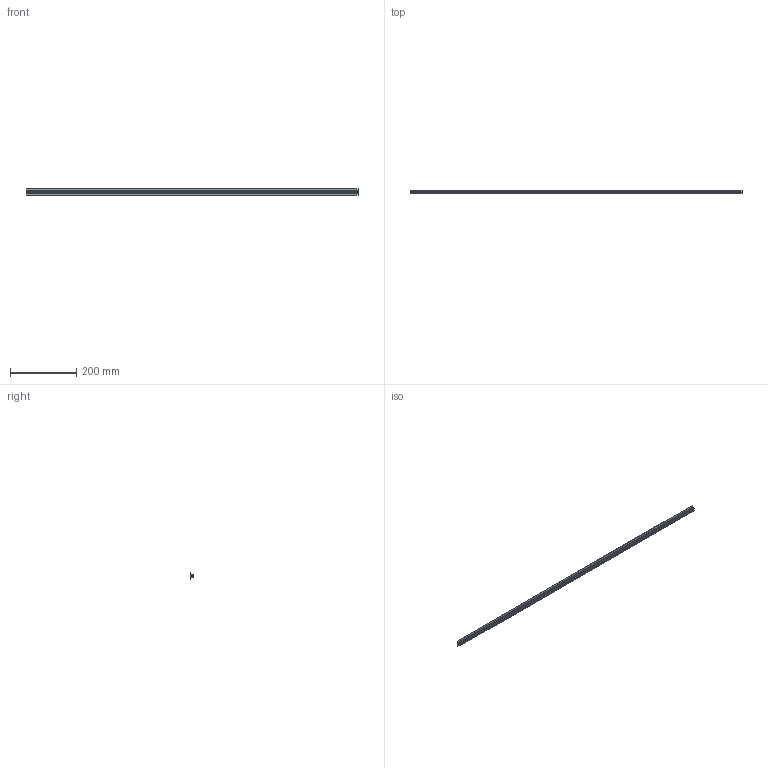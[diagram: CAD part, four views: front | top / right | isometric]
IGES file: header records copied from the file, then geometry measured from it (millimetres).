
Start section: SolidWorks IGES file using analytic representation for surfaces
Global section: file name: C:\Users\admin\Desktop\IGES\J3MPY.igs; native system: SolidWorks 2014; preprocessor: SolidWorks 2014; author: admin_pc; date: 170524.165519; units: millimetre
Bounding box: 1000 x 11 x 20 mm (x, y, z)
Surface area: 80963.8 mm2 (no closed solid volume)
Topology: 0 solids, 0 shells, 48 faces, 412 edges, 412 vertices
Faces by surface type: bspline 24, revolution 24
